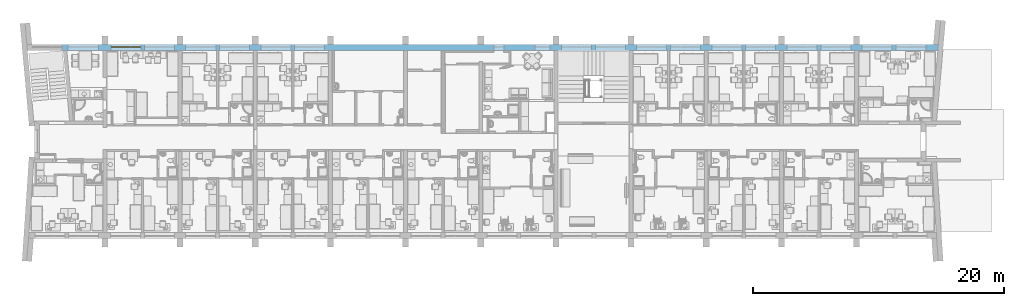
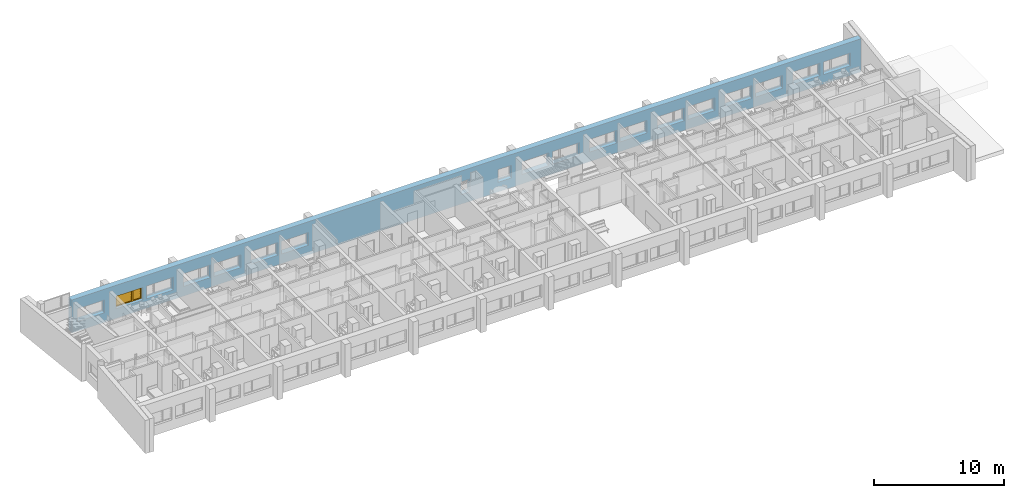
# One storey, part 20 of 172: 1 window, 19 openings, plus 1 element that does not belong to this part.
"""IFC2X3 building model written with IfcOpenShell, lengths in millimetres."""

import ifcopenshell
import ifcopenshell.guid

model = None  # the IFC model being written
_history = None  # IfcOwnerHistory: only IFC2X3 demands one
_inside = {}  # id of a spatial element -> (the spatial element, [elements in it])
_under = {}  # id of a project, library or spatial element -> (it, [spatial elements below it])
_declared = {}  # id of a project -> (the project, [libraries it declares])
_typed = {}  # id of a type object -> (the type object, [elements of that type])
_made_of = {}  # id of a material, layer set ... -> (it, [elements and type objects made of it])


def new_model(schema):
    """Start an empty IFC model of exactly this schema.

    Asked for "IFC4X3", IfcOpenShell would pick the latest addendum, in which some entities
    have other attributes; the version numbers below select the first issue.
    IFC2X3 requires an IfcOwnerHistory on every rooted entity: one is made here for all.
    """
    global model, _history
    if schema == "IFC4X3":
        model = ifcopenshell.file(schema_version=(4, 3, 0, 0))
    else:
        model = ifcopenshell.file(schema=schema)
    _inside.clear()
    _under.clear()
    _declared.clear()
    _typed.clear()
    _made_of.clear()
    _history = None
    if model.schema == "IFC2X3":
        org = make("IfcOrganization", Name="unknown")
        user = make(
            "IfcPersonAndOrganization",
            ThePerson=make("IfcPerson", FamilyName="unknown"),
            TheOrganization=org,
        )
        app = make(
            "IfcApplication",
            ApplicationDeveloper=org,
            Version="unknown",
            ApplicationFullName="unknown",
            ApplicationIdentifier="unknown",
        )
        _history = make(
            "IfcOwnerHistory",
            OwningUser=user,
            OwningApplication=app,
            ChangeAction="ADDED",
            CreationDate=0,
        )
    return model


def make(cls, **values):
    """One entity of the class cls with the attributes given. An attribute that is None is left unset."""
    return model.create_entity(
        cls, **{name: value for name, value in values.items() if value is not None}
    )


def entity(cls, *values):
    """Any entity or typed value of the class cls, its attributes in the order of the schema. None: left unset."""
    e = model.create_entity(cls)
    for i, value in enumerate(values):
        if value is not None:
            e[i] = value
    return e


def rooted(cls, **values):
    """An entity with a GlobalId (a new one), such as an element, a storey or a relation."""
    return make(cls, GlobalId=ifcopenshell.guid.new(), OwnerHistory=_history, **values)


def si_unit(unit_type, name, prefix=None):
    """IfcSIUnit, for example si_unit("LENGTHUNIT", "METRE", prefix="MILLI")."""
    return make("IfcSIUnit", UnitType=unit_type, Prefix=prefix, Name=name)


def converted_unit(unit_type, name, factor, base, dimensions=None, offset=None):
    """IfcConversionBasedUnit, such as the inch: factor (a typed value) times the base unit."""
    return make(
        "IfcConversionBasedUnit"
        if offset is None
        else "IfcConversionBasedUnitWithOffset",
        ConversionOffset=offset,
        Dimensions=None
        if dimensions is None
        else entity("IfcDimensionalExponents", *dimensions),
        UnitType=unit_type,
        Name=name,
        ConversionFactor=make(
            "IfcMeasureWithUnit", ValueComponent=factor, UnitComponent=base
        ),
    )


def money_unit(currency):
    """IfcMonetaryUnit."""
    return make("IfcMonetaryUnit", Currency=currency)


def assignment(units):
    """IfcUnitAssignment: the units of a project."""
    return None if units is None else make("IfcUnitAssignment", Units=units)


def point(xyz):
    """IfcCartesianPoint."""
    return None if xyz is None else make("IfcCartesianPoint", Coordinates=xyz)


def direction(xyz):
    """IfcDirection."""
    return None if xyz is None else make("IfcDirection", DirectionRatios=xyz)


def frame(location, z_axis=None, x_axis=None):
    """IfcAxis2Placement3D, a coordinate frame: its origin and axes. An axis left out is left unset."""
    return make(
        "IfcAxis2Placement3D",
        Location=point(location),
        Axis=direction(z_axis),
        RefDirection=direction(x_axis),
    )


def origin_with_axes():
    """The frame at (0, 0, 0) with the z axis (0, 0, 1) and the x axis (1, 0, 0) written out."""
    return frame((0.0, 0.0, 0.0), z_axis=(0.0, 0.0, 1.0), x_axis=(1.0, 0.0, 0.0))


def place(relative_to, where):
    """IfcLocalPlacement: puts the frame where relative to a parent placement (None: the world)."""
    return make(
        "IfcLocalPlacement", PlacementRelTo=relative_to, RelativePlacement=where
    )


def context(
    kind, dimensions, precision=None, world=None, true_north=None, identifier=None
):
    """IfcGeometricRepresentationContext, for example the 3D "Model" context."""
    return make(
        "IfcGeometricRepresentationContext",
        ContextIdentifier=identifier,
        ContextType=kind,
        CoordinateSpaceDimension=dimensions,
        Precision=precision,
        WorldCoordinateSystem=world,
        TrueNorth=true_north,
    )


def subcontext(parent, identifier, kind, view, scale=None):
    """IfcGeometricRepresentationSubContext, for example "Body" below "Model"."""
    return make(
        "IfcGeometricRepresentationSubContext",
        ContextIdentifier=identifier,
        ContextType=kind,
        ParentContext=parent,
        TargetScale=scale,
        TargetView=view,
    )


def project(units=None, contexts=None):
    """IfcProject with its units and contexts."""
    return rooted(
        "IfcProject",
        Name="project",
        RepresentationContexts=contexts,
        UnitsInContext=assignment(units),
    )


def spatial(cls, under=None, at=None, **own):
    """A site, building, storey or space (cls), placed at a placement, below another one or the project."""
    s = rooted(cls, ObjectPlacement=at, **own)
    if under is not None:
        _under.setdefault(under.id(), (under, []))[1].append(s)
    return s


def polyline(points):
    """IfcPolyline through the points."""
    return make("IfcPolyline", Points=[point(p) for p in points])


def outline(outer, holes=None, kind="AREA"):
    """IfcArbitraryClosedProfileDef: a profile drawn as a closed curve; with holes, ...WithVoids."""
    if holes is None:
        return make("IfcArbitraryClosedProfileDef", ProfileType=kind, OuterCurve=outer)
    return make(
        "IfcArbitraryProfileDefWithVoids",
        ProfileType=kind,
        OuterCurve=outer,
        InnerCurves=holes,
    )


def extrude(swept, where, along, depth):
    """IfcExtrudedAreaSolid: the profile swept, set in the frame where, extruded along a direction by depth."""
    return make(
        "IfcExtrudedAreaSolid",
        SweptArea=swept,
        Position=where,
        ExtrudedDirection=direction(along),
        Depth=depth,
    )


def faces_of(points, faces, orient=None, outer=None):
    """IfcFace entities. A face is a list of loops; a loop is a list of indices into points, from 0.

    orient and outer hold one flag for each loop. By default every Orientation is true, the
    first loop of a face is its IfcFaceOuterBound and the others are IfcFaceBound.
    """
    made = []
    for i, loops in enumerate(faces):
        bounds = []
        for j, loop in enumerate(loops):
            is_outer = j == 0 if outer is None else outer[i][j]
            bounds.append(
                make(
                    "IfcFaceOuterBound" if is_outer else "IfcFaceBound",
                    Bound=make("IfcPolyLoop", Polygon=[points[k] for k in loop]),
                    Orientation=True if orient is None else orient[i][j],
                )
            )
        made.append(make("IfcFace", Bounds=bounds))
    return made


def open_shell(faces, orient=None, outer=None):
    """The faces of one IfcOpenShell. surface_model builds it on its shared points."""
    return ("IfcOpenShell", faces, orient, outer)


def faceted_brep(points, faces, orient=None, outer=None, voids=None):
    """IfcFacetedBrep: a solid bounded by flat faces; with voids (closed shells), ...WithVoids."""
    shared = [point(p) for p in points]
    hull = make("IfcClosedShell", CfsFaces=faces_of(shared, faces, orient, outer))
    if voids is None:
        return make("IfcFacetedBrep", Outer=hull)
    return make(
        "IfcFacetedBrepWithVoids",
        Outer=hull,
        Voids=[
            make(cls, CfsFaces=faces_of(shared, fs, o, b)) for cls, fs, o, b in voids
        ],
    )


def surface_model(cls, points, shells):
    """IfcFaceBasedSurfaceModel or IfcShellBasedSurfaceModel (cls): surfaces that need not close."""
    shared = [point(p) for p in points]
    made = [make(c, CfsFaces=faces_of(shared, fs, o, b)) for c, fs, o, b in shells]
    if cls == "IfcFaceBasedSurfaceModel":
        return make(cls, FbsmFaces=made)
    return make(cls, SbsmBoundary=made)


def shape(context_of_items, identifier, shape_type, items):
    """IfcShapeRepresentation: the items that make up one representation, for example the "Body"."""
    return make(
        "IfcShapeRepresentation",
        ContextOfItems=context_of_items,
        RepresentationIdentifier=identifier,
        RepresentationType=shape_type,
        Items=items,
    )


def source(mapping_origin, context_of_items, identifier, shape_type, items):
    """IfcRepresentationMap: a shape defined once, which mapped items show again and again."""
    return make(
        "IfcRepresentationMap",
        MappingOrigin=mapping_origin,
        MappedRepresentation=shape(context_of_items, identifier, shape_type, items),
    )


def transform(
    local_origin,
    x_axis=None,
    y_axis=None,
    z_axis=None,
    scale=None,
    scale2=None,
    scale3=None,
    uniform=True,
):
    """IfcCartesianTransformationOperator3D, or its non-uniform kind. x_axis, y_axis, z_axis: its Axis1, 2, 3."""
    if uniform:
        return make(
            "IfcCartesianTransformationOperator3D",
            Axis1=direction(x_axis),
            Axis2=direction(y_axis),
            LocalOrigin=point(local_origin),
            Scale=scale,
            Axis3=direction(z_axis),
        )
    return make(
        "IfcCartesianTransformationOperator3DnonUniform",
        Axis1=direction(x_axis),
        Axis2=direction(y_axis),
        LocalOrigin=point(local_origin),
        Scale=scale,
        Axis3=direction(z_axis),
        Scale2=scale2,
        Scale3=scale3,
    )


def mapped(mapping_source, mapping_target):
    """IfcMappedItem: shows the shape of a source again, moved by a transform."""
    return make(
        "IfcMappedItem", MappingSource=mapping_source, MappingTarget=mapping_target
    )


def material(Name=None, Category=None):
    """IfcMaterial."""
    return make("IfcMaterial", Name=Name, Category=Category)


def material_list(materials):
    """IfcMaterialList."""
    return make("IfcMaterialList", Materials=materials)


def layer(
    of_material, thickness, ventilated=None, Name=None, Category=None, Priority=None
):
    """IfcMaterialLayer: one layer of a wall or slab, of a material (None: an air gap)."""
    return make(
        "IfcMaterialLayer",
        Material=of_material,
        LayerThickness=thickness,
        IsVentilated=ventilated,
        Name=Name,
        Category=Category,
        Priority=Priority,
    )


def layer_set(layers, Name=None):
    """IfcMaterialLayerSet."""
    return make("IfcMaterialLayerSet", MaterialLayers=layers, LayerSetName=Name)


def layer_usage(for_layer_set, set_direction, sense, offset, extent=None):
    """IfcMaterialLayerSetUsage: how a layer set lies in its element."""
    return make(
        "IfcMaterialLayerSetUsage",
        ForLayerSet=for_layer_set,
        LayerSetDirection=set_direction,
        DirectionSense=sense,
        OffsetFromReferenceLine=offset,
        ReferenceExtent=extent,
    )


def made_of(thing, what):
    """Note that an element or type object is made of a material, layer set ...; save() writes the relation."""
    if what is not None:
        _made_of.setdefault(what.id(), (what, []))[1].append(thing)
    return thing


def type_object(cls, material=None, **own):
    """A type object (cls), such as IfcWallType, which elements share."""
    return made_of(rooted(cls, **own), material)


def element(
    cls,
    number,
    at=None,
    inside=None,
    cuts=None,
    type_object=None,
    material=None,
    context=None,
    identifier="Body",
    shape_type=None,
    held_by="IfcProductDefinitionShape",
    body=None,
    shapes=None,
    **own,
):
    """One element of the class cls, such as IfcWall. Its Tag is "e" and its number.

    at: its placement. inside: the storey or other place that contains it. cuts: it is an
    opening in that element (IfcRelVoidsElement). A single representation is given by context,
    identifier, shape_type and body (its items); several are given by shapes. held_by: the class
    of the entity that holds the representations. save() writes the other relations.
    """
    e = rooted(cls, Tag="e%d" % number, ObjectPlacement=at, **own)
    if body is not None:
        shapes = [shape(context, identifier, shape_type, body)]
    if shapes is not None:
        e.Representation = make(held_by, Representations=shapes)
    if inside is not None:
        _inside.setdefault(inside.id(), (inside, []))[1].append(e)
    if cuts is not None:
        rooted(
            "IfcRelVoidsElement", RelatingBuildingElement=cuts, RelatedOpeningElement=e
        )
    if type_object is not None:
        _typed.setdefault(type_object.id(), (type_object, []))[1].append(e)
    return made_of(e, material)


def fill(opening, filler):
    """IfcRelFillsElement: the door or window that sits in an opening."""
    return rooted(
        "IfcRelFillsElement",
        RelatingOpeningElement=opening,
        RelatedBuildingElement=filler,
    )


def aggregate(whole, parts):
    """IfcRelAggregates: a whole, such as a stair, and the parts it consists of."""
    return rooted("IfcRelAggregates", RelatingObject=whole, RelatedObjects=parts)


def save(model, path):
    """Write the relations noted so far, then the file.

    IfcRelAggregates (storeys below a building ...), IfcRelContainedInSpatialStructure (elements
    in a storey), IfcRelDefinesByType, IfcRelAssociatesMaterial and IfcRelDeclares: one each for
    every whole, place, type object, material and project.
    """
    for whole, parts in _under.values():
        aggregate(whole, parts)
    for where, things in _inside.values():
        rooted(
            "IfcRelContainedInSpatialStructure",
            RelatedElements=things,
            RelatingStructure=where,
        )
    for kind, things in _typed.values():
        rooted("IfcRelDefinesByType", RelatedObjects=things, RelatingType=kind)
    for what, things in _made_of.values():
        rooted("IfcRelAssociatesMaterial", RelatedObjects=things, RelatingMaterial=what)
    for by, libraries in _declared.values():
        rooted("IfcRelDeclares", RelatingContext=by, RelatedDefinitions=libraries)
    model.write(path)


model = new_model("IFC2X3")

# Units and contexts
model_context = context("Model", 3, precision=1e-05, world=origin_with_axes(), true_north=direction((0.0, 1.0)))
body_context = subcontext(model_context, "Body", "Model", "MODEL_VIEW")
ifc_project = project(units=[si_unit("LENGTHUNIT", "METRE", prefix="MILLI"), si_unit("AREAUNIT", "SQUARE_METRE"), si_unit("VOLUMEUNIT", "CUBIC_METRE"), converted_unit("PLANEANGLEUNIT", "DEGREE", entity("IfcPlaneAngleMeasure", 0.0174532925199), si_unit("PLANEANGLEUNIT", "RADIAN"), dimensions=[0, 0, 0, 0, 0, 0, 0]), si_unit("SOLIDANGLEUNIT", "STERADIAN"), money_unit("USD"), converted_unit("TIMEUNIT", "Year", entity("IfcTimeMeasure", 31556926.0), si_unit("TIMEUNIT", "SECOND"), dimensions=[0, 0, 0, 0, 0, 0, 0]), si_unit("MASSUNIT", "GRAM"), si_unit("THERMODYNAMICTEMPERATUREUNIT", "DEGREE_CELSIUS"), si_unit("LUMINOUSINTENSITYUNIT", "LUMEN")], contexts=[model_context])

# Site, building, storey
site_placement = place(None, origin_with_axes())
site = spatial("IfcSite", under=ifc_project, at=site_placement, Name="Site", CompositionType="ELEMENT")
building_placement = place(site_placement, origin_with_axes())
building = spatial("IfcBuilding", under=site, at=building_placement, Name="Building", CompositionType="ELEMENT")
storey_placement = place(building_placement, frame((0.0, 0.0, 3200.0), z_axis=(0.0, 0.0, 1.0), x_axis=(1.0, 0.0, 0.0)))
storey = spatial("IfcBuildingStorey", under=building, at=storey_placement, Name="3KORRUS", CompositionType="ELEMENT", Elevation=3200.0)

# Wall, openings, window
ifc_material_1 = material(Name="Olemasolevad seinad tellis, uus viimistlus")
ifc_layer = layer(ifc_material_1, 500.0, ventilated="UNKNOWN")
ifc_layer_set = layer_set([ifc_layer], Name="Olemasolevad seinad tellis, uus viimistlus 500")
ifc_layer_usage = layer_usage(ifc_layer_set, "AXIS2", "POSITIVE", -100.0)
wall_type = type_object("IfcWallType", Name="Olemasolevad seinad tellis, uus viimistlus 500", PredefinedType="NOTDEFINED")
wall_placement = place(storey_placement, frame((-51569.3388124, -5039.6041088, 0.0), z_axis=(0.0, 0.0, 1.0), x_axis=(1.0, 0.0, 0.0)))
wall = element("IfcWallStandardCase", 1, at=wall_placement, inside=storey, type_object=wall_type, material=ifc_layer_usage, Name="VS1", ObjectType="VS1", context=body_context, shape_type="SweptSolid", body=[
    extrude(outline(polyline([(0.0, -100.0), (69914.7195482, -100.0), (69959.6995146, 400.0), (0.0, 400.0), (0.0, -100.0)])), origin_with_axes(), (0.0, 0.0, 1.0), 3100.0),
])
opening_1_placement = place(wall_placement, frame((34879.0421091, 0.0, 900.0), z_axis=(0.0, 0.0, 1.0), x_axis=(1.0, 0.0, 0.0)))
element("IfcOpeningElement", 2, at=opening_1_placement, cuts=wall, Name="WD - 001", context=body_context, shape_type="SweptSolid", body=[
    extrude(outline(polyline([(-400.0, 1200.0), (-400.0, 0.0), (400.0, 0.0), (400.0, 1200.0), (-400.0, 1200.0)])), frame((0.0, 200.0, 0.0), z_axis=(0.0, -1.0, 0.0), x_axis=(1.0, 0.0, 0.0)), (0.0, 0.0, 1.0), 800.0),
    extrude(outline(polyline([(-400.0, 0.0), (-400.0, -1200.0), (400.0, -1200.0), (400.0, 0.0), (-400.0, 0.0)])), frame((0.0, 200.0, 0.0), z_axis=(0.0, 1.0, 0.0), x_axis=(1.0, 0.0, 0.0)), (0.0, 0.0, 1.0), 700.0),
])
opening_2_placement = place(wall_placement, frame((38352.6323068, 0.0, 900.0), z_axis=(0.0, 0.0, 1.0), x_axis=(1.0, 0.0, 0.0)))
element("IfcOpeningElement", 3, at=opening_2_placement, cuts=wall, Name="A3", context=body_context, shape_type="SweptSolid", body=[
    extrude(outline(polyline([(-600.0, 1200.0), (-600.0, 0.0), (600.0, 0.0), (600.0, 1200.0), (-600.0, 1200.0)])), frame((0.0, 200.0, 0.0), z_axis=(0.0, -1.0, 0.0), x_axis=(1.0, 0.0, 0.0)), (0.0, 0.0, 1.0), 800.0),
    extrude(outline(polyline([(-600.0, 0.0), (-600.0, -1200.0), (600.0, -1200.0), (600.0, 0.0), (-600.0, 0.0)])), frame((0.0, 200.0, 0.0), z_axis=(0.0, 1.0, 0.0), x_axis=(1.0, 0.0, 0.0)), (0.0, 0.0, 1.0), 700.0),
])
opening_3_placement = place(wall_placement, frame((1700.0, 0.0, 900.0), z_axis=(0.0, 0.0, 1.0), x_axis=(1.0, 0.0, 0.0)))
element("IfcOpeningElement", 4, at=opening_3_placement, cuts=wall, Name="A1", context=body_context, shape_type="SweptSolid", body=[
    extrude(outline(polyline([(1200.0, 1200.0), (-1200.0, 1200.0), (-1200.0, 0.0), (1200.0, 0.0), (1200.0, 1200.0)])), frame((0.0, 200.0, 0.0), z_axis=(0.0, -1.0, 0.0), x_axis=(1.0, 0.0, 0.0)), (0.0, 0.0, 1.0), 800.0),
    extrude(outline(polyline([(1200.0, 0.0), (-1200.0, 0.0), (-1200.0, -1200.0), (1200.0, -1200.0), (1200.0, 0.0)])), frame((0.0, 200.0, 0.0), z_axis=(0.0, 1.0, 0.0), x_axis=(1.0, 0.0, 0.0)), (0.0, 0.0, 1.0), 700.0),
])
opening_4_placement = place(wall_placement, frame((7795.91085613, 0.0, 900.0), z_axis=(0.0, 0.0, 1.0), x_axis=(1.0, 0.0, 0.0)))
element("IfcOpeningElement", 5, at=opening_4_placement, cuts=wall, Name="A1", context=body_context, shape_type="SweptSolid", body=[
    extrude(outline(polyline([(1200.0, 1200.0), (-1200.0, 1200.0), (-1200.0, 0.0), (1200.0, 0.0), (1200.0, 1200.0)])), frame((0.0, 200.0, 0.0), z_axis=(0.0, -1.0, 0.0), x_axis=(1.0, 0.0, 0.0)), (0.0, 0.0, 1.0), 800.0),
    extrude(outline(polyline([(1200.0, 0.0), (-1200.0, 0.0), (-1200.0, -1200.0), (1200.0, -1200.0), (1200.0, 0.0)])), frame((0.0, 200.0, 0.0), z_axis=(0.0, 1.0, 0.0), x_axis=(1.0, 0.0, 0.0)), (0.0, 0.0, 1.0), 700.0),
])
opening_5_placement = place(wall_placement, frame((5095.91085613, 0.0, 900.0), z_axis=(0.0, 0.0, 1.0), x_axis=(1.0, 0.0, 0.0)))
opening_5 = element("IfcOpeningElement", 6, at=opening_5_placement, cuts=wall, Name="A2", context=body_context, shape_type="SweptSolid", body=[
    extrude(outline(polyline([(-1200.0, 1200.0), (-1200.0, 0.0), (1200.0, 0.0), (1200.0, 1200.0), (-1200.0, 1200.0)])), frame((0.0, 200.0, 0.0), z_axis=(0.0, -1.0, 0.0), x_axis=(1.0, 0.0, 0.0)), (0.0, 0.0, 1.0), 800.0),
    extrude(outline(polyline([(-1200.0, 0.0), (-1200.0, -1200.0), (1200.0, -1200.0), (1200.0, 0.0), (-1200.0, 0.0)])), frame((0.0, 200.0, 0.0), z_axis=(0.0, 1.0, 0.0), x_axis=(1.0, 0.0, 0.0)), (0.0, 0.0, 1.0), 700.0),
])
opening_6_placement = place(wall_placement, frame((13779.0421091, 0.0, 900.0), z_axis=(0.0, 0.0, 1.0), x_axis=(1.0, 0.0, 0.0)))
element("IfcOpeningElement", 7, at=opening_6_placement, cuts=wall, Name="A1", context=body_context, shape_type="SweptSolid", body=[
    extrude(outline(polyline([(1200.0, 1200.0), (-1200.0, 1200.0), (-1200.0, 0.0), (1200.0, 0.0), (1200.0, 1200.0)])), frame((0.0, 200.0, 0.0), z_axis=(0.0, -1.0, 0.0), x_axis=(1.0, 0.0, 0.0)), (0.0, 0.0, 1.0), 800.0),
    extrude(outline(polyline([(1200.0, 0.0), (-1200.0, 0.0), (-1200.0, -1200.0), (1200.0, -1200.0), (1200.0, 0.0)])), frame((0.0, 200.0, 0.0), z_axis=(0.0, 1.0, 0.0), x_axis=(1.0, 0.0, 0.0)), (0.0, 0.0, 1.0), 700.0),
])
opening_7_placement = place(wall_placement, frame((11079.0421091, 0.0, 900.0), z_axis=(0.0, 0.0, 1.0), x_axis=(1.0, 0.0, 0.0)))
element("IfcOpeningElement", 8, at=opening_7_placement, cuts=wall, Name="A2", context=body_context, shape_type="SweptSolid", body=[
    extrude(outline(polyline([(-1200.0, 1200.0), (-1200.0, 0.0), (1200.0, 0.0), (1200.0, 1200.0), (-1200.0, 1200.0)])), frame((0.0, 200.0, 0.0), z_axis=(0.0, -1.0, 0.0), x_axis=(1.0, 0.0, 0.0)), (0.0, 0.0, 1.0), 800.0),
    extrude(outline(polyline([(-1200.0, 0.0), (-1200.0, -1200.0), (1200.0, -1200.0), (1200.0, 0.0), (-1200.0, 0.0)])), frame((0.0, 200.0, 0.0), z_axis=(0.0, 1.0, 0.0), x_axis=(1.0, 0.0, 0.0)), (0.0, 0.0, 1.0), 700.0),
])
opening_8_placement = place(wall_placement, frame((43769.0421091, 0.0, 900.0), z_axis=(0.0, 0.0, 1.0), x_axis=(1.0, 0.0, 0.0)))
element("IfcOpeningElement", 9, at=opening_8_placement, cuts=wall, Name="A1", context=body_context, shape_type="SweptSolid", body=[
    extrude(outline(polyline([(1200.0, 1200.0), (-1200.0, 1200.0), (-1200.0, 0.0), (1200.0, 0.0), (1200.0, 1200.0)])), frame((0.0, 200.0, 0.0), z_axis=(0.0, -1.0, 0.0), x_axis=(1.0, 0.0, 0.0)), (0.0, 0.0, 1.0), 800.0),
    extrude(outline(polyline([(1200.0, 0.0), (-1200.0, 0.0), (-1200.0, -1200.0), (1200.0, -1200.0), (1200.0, 0.0)])), frame((0.0, 200.0, 0.0), z_axis=(0.0, 1.0, 0.0), x_axis=(1.0, 0.0, 0.0)), (0.0, 0.0, 1.0), 700.0),
])
opening_9_placement = place(wall_placement, frame((41069.0421091, 0.0, 900.0), z_axis=(0.0, 0.0, 1.0), x_axis=(1.0, 0.0, 0.0)))
element("IfcOpeningElement", 10, at=opening_9_placement, cuts=wall, Name="A2", context=body_context, shape_type="SweptSolid", body=[
    extrude(outline(polyline([(-1200.0, 1200.0), (-1200.0, 0.0), (1200.0, 0.0), (1200.0, 1200.0), (-1200.0, 1200.0)])), frame((0.0, 200.0, 0.0), z_axis=(0.0, -1.0, 0.0), x_axis=(1.0, 0.0, 0.0)), (0.0, 0.0, 1.0), 800.0),
    extrude(outline(polyline([(-1200.0, 0.0), (-1200.0, -1200.0), (1200.0, -1200.0), (1200.0, 0.0), (-1200.0, 0.0)])), frame((0.0, 200.0, 0.0), z_axis=(0.0, 1.0, 0.0), x_axis=(1.0, 0.0, 0.0)), (0.0, 0.0, 1.0), 700.0),
])
opening_10_placement = place(wall_placement, frame((49769.0421091, 0.0, 900.0), z_axis=(0.0, 0.0, 1.0), x_axis=(1.0, 0.0, 0.0)))
element("IfcOpeningElement", 11, at=opening_10_placement, cuts=wall, Name="A1", context=body_context, shape_type="SweptSolid", body=[
    extrude(outline(polyline([(1200.0, 1200.0), (-1200.0, 1200.0), (-1200.0, 0.0), (1200.0, 0.0), (1200.0, 1200.0)])), frame((0.0, 200.0, 0.0), z_axis=(0.0, -1.0, 0.0), x_axis=(1.0, 0.0, 0.0)), (0.0, 0.0, 1.0), 800.0),
    extrude(outline(polyline([(1200.0, 0.0), (-1200.0, 0.0), (-1200.0, -1200.0), (1200.0, -1200.0), (1200.0, 0.0)])), frame((0.0, 200.0, 0.0), z_axis=(0.0, 1.0, 0.0), x_axis=(1.0, 0.0, 0.0)), (0.0, 0.0, 1.0), 700.0),
])
opening_11_placement = place(wall_placement, frame((47069.0421091, 0.0, 900.0), z_axis=(0.0, 0.0, 1.0), x_axis=(1.0, 0.0, 0.0)))
element("IfcOpeningElement", 12, at=opening_11_placement, cuts=wall, Name="A2", context=body_context, shape_type="SweptSolid", body=[
    extrude(outline(polyline([(-1200.0, 1200.0), (-1200.0, 0.0), (1200.0, 0.0), (1200.0, 1200.0), (-1200.0, 1200.0)])), frame((0.0, 200.0, 0.0), z_axis=(0.0, -1.0, 0.0), x_axis=(1.0, 0.0, 0.0)), (0.0, 0.0, 1.0), 800.0),
    extrude(outline(polyline([(-1200.0, 0.0), (-1200.0, -1200.0), (1200.0, -1200.0), (1200.0, 0.0), (-1200.0, 0.0)])), frame((0.0, 200.0, 0.0), z_axis=(0.0, 1.0, 0.0), x_axis=(1.0, 0.0, 0.0)), (0.0, 0.0, 1.0), 700.0),
])
opening_12_placement = place(wall_placement, frame((55769.0421091, 0.0, 900.0), z_axis=(0.0, 0.0, 1.0), x_axis=(1.0, 0.0, 0.0)))
element("IfcOpeningElement", 13, at=opening_12_placement, cuts=wall, Name="A1", context=body_context, shape_type="SweptSolid", body=[
    extrude(outline(polyline([(1200.0, 1200.0), (-1200.0, 1200.0), (-1200.0, 0.0), (1200.0, 0.0), (1200.0, 1200.0)])), frame((0.0, 200.0, 0.0), z_axis=(0.0, -1.0, 0.0), x_axis=(1.0, 0.0, 0.0)), (0.0, 0.0, 1.0), 800.0),
    extrude(outline(polyline([(1200.0, 0.0), (-1200.0, 0.0), (-1200.0, -1200.0), (1200.0, -1200.0), (1200.0, 0.0)])), frame((0.0, 200.0, 0.0), z_axis=(0.0, 1.0, 0.0), x_axis=(1.0, 0.0, 0.0)), (0.0, 0.0, 1.0), 700.0),
])
opening_13_placement = place(wall_placement, frame((53069.0421091, 0.0, 900.0), z_axis=(0.0, 0.0, 1.0), x_axis=(1.0, 0.0, 0.0)))
element("IfcOpeningElement", 14, at=opening_13_placement, cuts=wall, Name="A2", context=body_context, shape_type="SweptSolid", body=[
    extrude(outline(polyline([(-1200.0, 1200.0), (-1200.0, 0.0), (1200.0, 0.0), (1200.0, 1200.0), (-1200.0, 1200.0)])), frame((0.0, 200.0, 0.0), z_axis=(0.0, -1.0, 0.0), x_axis=(1.0, 0.0, 0.0)), (0.0, 0.0, 1.0), 800.0),
    extrude(outline(polyline([(-1200.0, 0.0), (-1200.0, -1200.0), (1200.0, -1200.0), (1200.0, 0.0), (-1200.0, 0.0)])), frame((0.0, 200.0, 0.0), z_axis=(0.0, 1.0, 0.0), x_axis=(1.0, 0.0, 0.0)), (0.0, 0.0, 1.0), 700.0),
])
opening_14_placement = place(wall_placement, frame((61769.0421091, 0.0, 900.0), z_axis=(0.0, 0.0, 1.0), x_axis=(1.0, 0.0, 0.0)))
element("IfcOpeningElement", 15, at=opening_14_placement, cuts=wall, Name="A1", context=body_context, shape_type="SweptSolid", body=[
    extrude(outline(polyline([(1200.0, 1200.0), (-1200.0, 1200.0), (-1200.0, 0.0), (1200.0, 0.0), (1200.0, 1200.0)])), frame((0.0, 200.0, 0.0), z_axis=(0.0, -1.0, 0.0), x_axis=(1.0, 0.0, 0.0)), (0.0, 0.0, 1.0), 800.0),
    extrude(outline(polyline([(1200.0, 0.0), (-1200.0, 0.0), (-1200.0, -1200.0), (1200.0, -1200.0), (1200.0, 0.0)])), frame((0.0, 200.0, 0.0), z_axis=(0.0, 1.0, 0.0), x_axis=(1.0, 0.0, 0.0)), (0.0, 0.0, 1.0), 700.0),
])
opening_15_placement = place(wall_placement, frame((59069.0421091, 0.0, 900.0), z_axis=(0.0, 0.0, 1.0), x_axis=(1.0, 0.0, 0.0)))
element("IfcOpeningElement", 16, at=opening_15_placement, cuts=wall, Name="A2", context=body_context, shape_type="SweptSolid", body=[
    extrude(outline(polyline([(-1200.0, 1200.0), (-1200.0, 0.0), (1200.0, 0.0), (1200.0, 1200.0), (-1200.0, 1200.0)])), frame((0.0, 200.0, 0.0), z_axis=(0.0, -1.0, 0.0), x_axis=(1.0, 0.0, 0.0)), (0.0, 0.0, 1.0), 800.0),
    extrude(outline(polyline([(-1200.0, 0.0), (-1200.0, -1200.0), (1200.0, -1200.0), (1200.0, 0.0), (-1200.0, 0.0)])), frame((0.0, 200.0, 0.0), z_axis=(0.0, 1.0, 0.0), x_axis=(1.0, 0.0, 0.0)), (0.0, 0.0, 1.0), 700.0),
])
opening_16_placement = place(wall_placement, frame((67773.3244043, 0.0, 900.0), z_axis=(0.0, 0.0, 1.0), x_axis=(1.0, 0.0, 0.0)))
element("IfcOpeningElement", 17, at=opening_16_placement, cuts=wall, Name="A1", context=body_context, shape_type="SweptSolid", body=[
    extrude(outline(polyline([(1200.0, 1200.0), (-1200.0, 1200.0), (-1200.0, 0.0), (1200.0, 0.0), (1200.0, 1200.0)])), frame((0.0, 200.0, 0.0), z_axis=(0.0, -1.0, 0.0), x_axis=(1.0, 0.0, 0.0)), (0.0, 0.0, 1.0), 800.0),
    extrude(outline(polyline([(1200.0, 0.0), (-1200.0, 0.0), (-1200.0, -1200.0), (1200.0, -1200.0), (1200.0, 0.0)])), frame((0.0, 200.0, 0.0), z_axis=(0.0, 1.0, 0.0), x_axis=(1.0, 0.0, 0.0)), (0.0, 0.0, 1.0), 700.0),
])
opening_17_placement = place(wall_placement, frame((65073.3244043, 0.0, 900.0), z_axis=(0.0, 0.0, 1.0), x_axis=(1.0, 0.0, 0.0)))
element("IfcOpeningElement", 18, at=opening_17_placement, cuts=wall, Name="A2", context=body_context, shape_type="SweptSolid", body=[
    extrude(outline(polyline([(-1200.0, 1200.0), (-1200.0, 0.0), (1200.0, 0.0), (1200.0, 1200.0), (-1200.0, 1200.0)])), frame((0.0, 200.0, 0.0), z_axis=(0.0, -1.0, 0.0), x_axis=(1.0, 0.0, 0.0)), (0.0, 0.0, 1.0), 800.0),
    extrude(outline(polyline([(-1200.0, 0.0), (-1200.0, -1200.0), (1200.0, -1200.0), (1200.0, 0.0), (-1200.0, 0.0)])), frame((0.0, 200.0, 0.0), z_axis=(0.0, 1.0, 0.0), x_axis=(1.0, 0.0, 0.0)), (0.0, 0.0, 1.0), 700.0),
])
opening_18_placement = place(wall_placement, frame((19767.4765851, 0.0, 900.0), z_axis=(0.0, 0.0, 1.0), x_axis=(1.0, 0.0, 0.0)))
element("IfcOpeningElement", 19, at=opening_18_placement, cuts=wall, Name="A1", context=body_context, shape_type="SweptSolid", body=[
    extrude(outline(polyline([(1200.0, 1200.0), (-1200.0, 1200.0), (-1200.0, 0.0), (1200.0, 0.0), (1200.0, 1200.0)])), frame((0.0, 200.0, 0.0), z_axis=(0.0, -1.0, 0.0), x_axis=(1.0, 0.0, 0.0)), (0.0, 0.0, 1.0), 800.0),
    extrude(outline(polyline([(1200.0, 0.0), (-1200.0, 0.0), (-1200.0, -1200.0), (1200.0, -1200.0), (1200.0, 0.0)])), frame((0.0, 200.0, 0.0), z_axis=(0.0, 1.0, 0.0), x_axis=(1.0, 0.0, 0.0)), (0.0, 0.0, 1.0), 700.0),
])
opening_19_placement = place(wall_placement, frame((17067.4765851, 0.0, 900.0), z_axis=(0.0, 0.0, 1.0), x_axis=(1.0, 0.0, 0.0)))
element("IfcOpeningElement", 20, at=opening_19_placement, cuts=wall, Name="A2", context=body_context, shape_type="SweptSolid", body=[
    extrude(outline(polyline([(-1200.0, 1200.0), (-1200.0, 0.0), (1200.0, 0.0), (1200.0, 1200.0), (-1200.0, 1200.0)])), frame((0.0, 200.0, 0.0), z_axis=(0.0, -1.0, 0.0), x_axis=(1.0, 0.0, 0.0)), (0.0, 0.0, 1.0), 800.0),
    extrude(outline(polyline([(-1200.0, 0.0), (-1200.0, -1200.0), (1200.0, -1200.0), (1200.0, 0.0), (-1200.0, 0.0)])), frame((0.0, 200.0, 0.0), z_axis=(0.0, 1.0, 0.0), x_axis=(1.0, 0.0, 0.0)), (0.0, 0.0, 1.0), 700.0),
])
ifc_material_2 = material(Name="Background")
ifc_material_list = material_list([ifc_material_2])
window_style = type_object("IfcWindowStyle", Name="Double Window 19", ConstructionType="NOTDEFINED", OperationType="DOUBLE_PANEL_VERTICAL", ParameterTakesPrecedence=False, Sizeable=False)
shared_shape = source(origin_with_axes(), body_context, "Body", "SurfaceModel", [
    faceted_brep([(-1175.0, -200.0, 1150.0), (-1200.0, -200.0, 1150.0), (-1200.0, -250.0, 1150.0), (-1150.0, -250.0, 1150.0), (-1150.0, -225.0, 1150.0), (-1175.0, -225.0, 1150.0), (-1175.0, -200.0, 50.0), (-1200.0, -200.0, 50.0), (-1200.0, -250.0, 50.0), (-1150.0, -250.0, 50.0), (-1150.0, -225.0, 50.0), (-1175.0, -225.0, 50.0)], [[[0, 1, 2, 3, 4, 5]], [[6, 7, 1, 0]], [[1, 7, 8, 2]], [[2, 8, 9, 3]], [[4, 3, 9, 10]], [[10, 11, 5, 4]], [[5, 11, 6, 0]], [[11, 10, 9, 8, 7, 6]]]),
    faceted_brep([(1150.0, -225.0, 1150.0), (1150.0, -250.0, 1150.0), (1200.0, -250.0, 1150.0), (1200.0, -200.0, 1150.0), (1175.0, -200.0, 1150.0), (1175.0, -225.0, 1150.0), (1150.0, -225.0, 50.0), (1150.0, -250.0, 50.0), (1200.0, -250.0, 50.0), (1200.0, -200.0, 50.0), (1175.0, -200.0, 50.0), (1175.0, -225.0, 50.0)], [[[0, 1, 2, 3, 4, 5]], [[6, 7, 1, 0]], [[8, 2, 1, 7]], [[9, 3, 2, 8]], [[4, 3, 9, 10]], [[10, 11, 5, 4]], [[5, 11, 6, 0]], [[11, 10, 9, 8, 7, 6]]]),
    faceted_brep([(350.0, -225.0, 1150.0), (350.0, -250.0, 1150.0), (450.0, -250.0, 1150.0), (450.0, -225.0, 1150.0), (425.0, -225.0, 1150.0), (425.0, -200.0, 1150.0), (375.0, -200.0, 1150.0), (375.0, -225.0, 1150.0), (350.0, -225.0, 50.0), (350.0, -250.0, 50.0), (450.0, -250.0, 50.0), (450.0, -225.0, 50.0), (425.0, -225.0, 50.0), (425.0, -200.0, 50.0), (375.0, -200.0, 50.0), (375.0, -225.0, 50.0)], [[[0, 1, 2, 3, 4, 5, 6, 7]], [[8, 9, 1, 0]], [[10, 2, 1, 9]], [[3, 2, 10, 11]], [[11, 12, 4, 3]], [[4, 12, 13, 5]], [[6, 5, 13, 14]], [[14, 15, 7, 6]], [[7, 15, 8, 0]], [[15, 14, 13, 12, 11, 10, 9, 8]]]),
    faceted_brep([(350.0, -225.0, 50.0), (350.0, -250.0, 50.0), (450.0, -250.0, 50.0), (450.0, -225.0, 50.0), (425.0, -225.0, 50.0), (425.0, -200.0, 50.0), (375.0, -200.0, 50.0), (375.0, -225.0, 50.0), (-1150.0, -225.0, 50.0), (-1150.0, -250.0, 50.0), (-1200.0, -250.0, 50.0), (-1200.0, -250.0, 0.0), (1200.0, -250.0, 0.0), (1200.0, -250.0, 50.0), (1150.0, -250.0, 50.0), (1150.0, -225.0, 50.0), (1175.0, -225.0, 50.0), (1175.0, -225.0, 25.0), (425.0, -225.0, 25.0), (425.0, -200.0, 25.0), (-1175.0, -200.0, 25.0), (375.0, -200.0, 25.0), (1175.0, -200.0, 25.0), (1175.0, -200.0, 50.0), (1200.0, -200.0, 50.0), (1200.0, -200.0, 0.0), (-1200.0, -200.0, 0.0), (-1200.0, -200.0, 50.0), (-1175.0, -200.0, 50.0), (375.0, -225.0, 25.0), (-1175.0, -225.0, 25.0), (-1175.0, -225.0, 50.0)], [[[0, 1, 2, 3, 4, 5, 6, 7]], [[8, 9, 1, 0]], [[10, 11, 12, 13, 14, 2, 1, 9]], [[3, 2, 14, 15]], [[16, 17, 18, 4, 3, 15]], [[4, 18, 19, 5]], [[20, 21, 6, 5, 19, 22, 23, 24, 25, 26, 27, 28]], [[21, 29, 7, 6]], [[7, 29, 30, 31, 8, 0]], [[31, 28, 27, 10, 9, 8]], [[27, 26, 11, 10]], [[26, 25, 12, 11]], [[25, 24, 13, 12]], [[15, 14, 13, 24, 23, 16]], [[22, 17, 16, 23]], [[19, 18, 17, 22]], [[20, 30, 29, 21]], [[31, 30, 20, 28]]]),
    faceted_brep([(-1175.0, -200.0, 1150.0), (-1200.0, -200.0, 1150.0), (-1200.0, -200.0, 1200.0), (1200.0, -200.0, 1200.0), (1200.0, -200.0, 1150.0), (1175.0, -200.0, 1150.0), (1175.0, -200.0, 1175.0), (425.0, -200.0, 1175.0), (425.0, -200.0, 1150.0), (375.0, -200.0, 1150.0), (375.0, -200.0, 1175.0), (-1175.0, -200.0, 1175.0), (-1175.0, -225.0, 1150.0), (-1150.0, -225.0, 1150.0), (-1150.0, -250.0, 1150.0), (-1200.0, -250.0, 1150.0), (-1200.0, -250.0, 1200.0), (1200.0, -250.0, 1200.0), (1200.0, -250.0, 1150.0), (1175.0, -225.0, 1150.0), (1150.0, -250.0, 1150.0), (1150.0, -225.0, 1150.0), (1175.0, -225.0, 1175.0), (425.0, -225.0, 1175.0), (425.0, -225.0, 1150.0), (375.0, -225.0, 1150.0), (450.0, -225.0, 1150.0), (450.0, -250.0, 1150.0), (350.0, -250.0, 1150.0), (350.0, -225.0, 1150.0), (375.0, -225.0, 1175.0), (-1175.0, -225.0, 1175.0)], [[[0, 1, 2, 3, 4, 5, 6, 7, 8, 9, 10, 11]], [[12, 13, 14, 15, 1, 0]], [[2, 1, 15, 16]], [[3, 2, 16, 17]], [[4, 3, 17, 18]], [[19, 5, 4, 18, 20, 21]], [[5, 19, 22, 6]], [[6, 22, 23, 7]], [[7, 23, 24, 8]], [[25, 9, 8, 24, 26, 27, 28, 29]], [[9, 25, 30, 10]], [[10, 30, 31, 11]], [[11, 31, 12, 0]], [[29, 13, 12, 31, 30, 25]], [[29, 28, 14, 13]], [[27, 20, 18, 17, 16, 15, 14, 28]], [[21, 20, 27, 26]], [[21, 26, 24, 23, 22, 19]]]),
    faceted_brep([(-1125.0, -225.0, 1125.0), (-1125.0, -175.0, 1125.0), (-1175.0, -175.0, 1125.0), (-1175.0, -225.0, 1125.0), (-1125.0, -225.0, 75.0), (-1125.0, -175.0, 75.0), (-1175.0, -175.0, 75.0), (-1175.0, -225.0, 75.0)], [[[0, 1, 2, 3]], [[4, 5, 1, 0]], [[1, 5, 6, 2]], [[3, 2, 6, 7]], [[0, 3, 7, 4]], [[7, 6, 5, 4]]]),
    faceted_brep([(325.0, -225.0, 75.0), (325.0, -175.0, 75.0), (375.0, -175.0, 75.0), (375.0, -225.0, 75.0), (325.0, -225.0, 1125.0), (325.0, -175.0, 1125.0), (375.0, -175.0, 1125.0), (375.0, -225.0, 1125.0)], [[[0, 1, 2, 3]], [[4, 5, 1, 0]], [[1, 5, 6, 2]], [[3, 2, 6, 7]], [[0, 3, 7, 4]], [[7, 6, 5, 4]]]),
    faceted_brep([(375.0, -225.0, 25.0), (375.0, -175.0, 25.0), (375.0, -175.0, 75.0), (375.0, -225.0, 75.0), (-1175.0, -225.0, 25.0), (-1175.0, -175.0, 25.0), (-1175.0, -175.0, 75.0), (-1125.0, -175.0, 75.0), (325.0, -175.0, 75.0), (325.0, -225.0, 75.0), (-1125.0, -225.0, 75.0), (-1175.0, -225.0, 75.0)], [[[0, 1, 2, 3]], [[4, 5, 1, 0]], [[1, 5, 6, 7, 8, 2]], [[3, 2, 8, 9]], [[0, 3, 9, 10, 11, 4]], [[11, 6, 5, 4]], [[10, 7, 6, 11]], [[9, 8, 7, 10]]]),
    faceted_brep([(-1175.0, -225.0, 1175.0), (-1175.0, -175.0, 1175.0), (-1175.0, -175.0, 1125.0), (-1175.0, -225.0, 1125.0), (375.0, -225.0, 1175.0), (375.0, -175.0, 1175.0), (375.0, -175.0, 1125.0), (325.0, -175.0, 1125.0), (-1125.0, -175.0, 1125.0), (-1125.0, -225.0, 1125.0), (325.0, -225.0, 1125.0), (375.0, -225.0, 1125.0)], [[[0, 1, 2, 3]], [[4, 5, 1, 0]], [[1, 5, 6, 7, 8, 2]], [[3, 2, 8, 9]], [[0, 3, 9, 10, 11, 4]], [[11, 6, 5, 4]], [[10, 7, 6, 11]], [[9, 8, 7, 10]]]),
    surface_model("IfcShellBasedSurfaceModel", [(-1125.0, -210.0, 75.0), (325.0, -210.0, 75.0), (325.0, -210.0, 1125.0), (-1125.0, -210.0, 1125.0)], [open_shell([[[0, 1, 2, 3]]])]),
    surface_model("IfcShellBasedSurfaceModel", [(-1125.0, -190.0, 75.0), (-1125.0, -190.0, 1125.0), (325.0, -190.0, 1125.0), (325.0, -190.0, 75.0)], [open_shell([[[0, 1, 2, 3]]])]),
    faceted_brep([(475.0, -225.0, 1125.0), (475.0, -175.0, 1125.0), (425.0, -175.0, 1125.0), (425.0, -225.0, 1125.0), (475.0, -225.0, 75.0), (475.0, -175.0, 75.0), (425.0, -175.0, 75.0), (425.0, -225.0, 75.0)], [[[0, 1, 2, 3]], [[4, 5, 1, 0]], [[1, 5, 6, 2]], [[3, 2, 6, 7]], [[0, 3, 7, 4]], [[7, 6, 5, 4]]]),
    faceted_brep([(1125.0, -225.0, 75.0), (1125.0, -175.0, 75.0), (1175.0, -175.0, 75.0), (1175.0, -225.0, 75.0), (1125.0, -225.0, 1125.0), (1125.0, -175.0, 1125.0), (1175.0, -175.0, 1125.0), (1175.0, -225.0, 1125.0)], [[[0, 1, 2, 3]], [[4, 5, 1, 0]], [[1, 5, 6, 2]], [[3, 2, 6, 7]], [[0, 3, 7, 4]], [[7, 6, 5, 4]]]),
    faceted_brep([(1175.0, -225.0, 25.0), (1175.0, -175.0, 25.0), (1175.0, -175.0, 75.0), (1175.0, -225.0, 75.0), (425.0, -225.0, 25.0), (425.0, -175.0, 25.0), (425.0, -175.0, 75.0), (475.0, -175.0, 75.0), (1125.0, -175.0, 75.0), (1125.0, -225.0, 75.0), (475.0, -225.0, 75.0), (425.0, -225.0, 75.0)], [[[0, 1, 2, 3]], [[4, 5, 1, 0]], [[1, 5, 6, 7, 8, 2]], [[3, 2, 8, 9]], [[0, 3, 9, 10, 11, 4]], [[11, 6, 5, 4]], [[10, 7, 6, 11]], [[9, 8, 7, 10]]]),
    faceted_brep([(425.0, -225.0, 1175.0), (425.0, -175.0, 1175.0), (425.0, -175.0, 1125.0), (425.0, -225.0, 1125.0), (1175.0, -225.0, 1175.0), (1175.0, -175.0, 1175.0), (1175.0, -175.0, 1125.0), (1125.0, -175.0, 1125.0), (475.0, -175.0, 1125.0), (475.0, -225.0, 1125.0), (1125.0, -225.0, 1125.0), (1175.0, -225.0, 1125.0)], [[[0, 1, 2, 3]], [[4, 5, 1, 0]], [[1, 5, 6, 7, 8, 2]], [[3, 2, 8, 9]], [[0, 3, 9, 10, 11, 4]], [[11, 6, 5, 4]], [[10, 7, 6, 11]], [[9, 8, 7, 10]]]),
    surface_model("IfcShellBasedSurfaceModel", [(475.0, -210.0, 75.0), (1125.0, -210.0, 75.0), (1125.0, -210.0, 1125.0), (475.0, -210.0, 1125.0)], [open_shell([[[0, 1, 2, 3]]])]),
    surface_model("IfcShellBasedSurfaceModel", [(475.0, -190.0, 75.0), (475.0, -190.0, 1125.0), (1125.0, -190.0, 1125.0), (1125.0, -190.0, 75.0)], [open_shell([[[0, 1, 2, 3]]])]),
])
window_placement = place(opening_5_placement, frame((-1200.0, 0.0, 0.0), z_axis=(0.0, 0.0, 1.0), x_axis=(1.0, 0.0, 0.0)))
window = element("IfcWindow", 21, at=window_placement, inside=storey, type_object=window_style, material=ifc_material_list, Name="A2", ObjectType="A2", OverallHeight=1200.0, OverallWidth=2400.0, context=body_context, shape_type="MappedRepresentation", body=[
    mapped(shared_shape, transform((1200.0, 400.0, 0.0))),
])
fill(opening_5, window)

save(model, "model.ifc")
